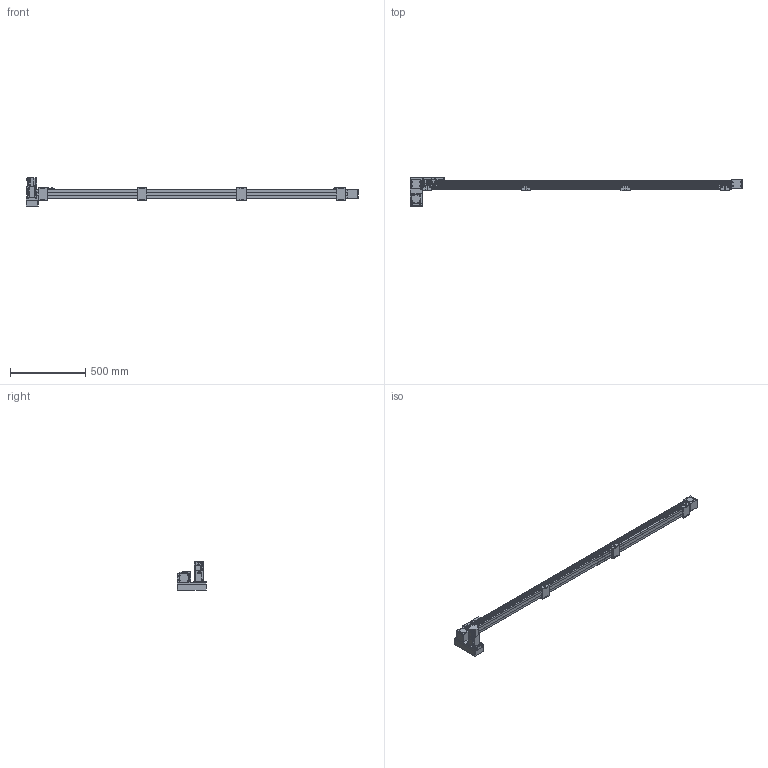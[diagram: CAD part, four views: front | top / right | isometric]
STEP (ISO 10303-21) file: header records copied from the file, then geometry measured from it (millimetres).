
FILE_DESCRIPTION(/* description */ ('STEP AP214'),/* implementation_level */ '2;1');
FILE_NAME(/* name */ 'SK60-P13-S1900-LD-T40-C1-N(0)',/* time_stamp */ '2023-04-06T04:39:28+02:00',/* author */ ('License CC BY-ND 4.0'),/* organization */ ('CADENAS'),/* preprocessor_version */ 'ST-DEVELOPER v19.3',/* originating_system */ 'PARTsolutions',/* authorisation */ ' ');
FILE_SCHEMA (('AUTOMOTIVE_DESIGN {1 0 10303 214 3 1 1}'));
Length unit declared in the file: millimetre
Products named in the file (10): SK60-P13-S1900-LD-T40-C1-N(0); PSC140-sensor; SK60-S450_seat; SK60-S450-BL-C1_slider; SK60_body3; SK60_body6; SK60-BL_body2; T40-p1; SK60-LD_fb; SK60-S1900-LD-C1_body
Assembly tree (18 placements, depth 2):
  SK60-P13-S1900-LD-T40-C1-N(0)
    PSC140-sensor  x3
    SK60-S450_seat  x4
    SK60-S450-BL-C1_slider
    SK60_body3  x3
    SK60_body6  x2
    SK60-BL_body2  x2
    T40-p1
    SK60-LD_fb
    SK60-S1900-LD-C1_body
Bounding box: 2205.5 x 199 x 189.7 mm (x, y, z)
Volume: 8666807.7 mm3; surface area: 1036063.9 mm2
Topology: 18 solids, 18 shells, 898 faces, 2244 edges, 1477 vertices
Faces by surface type: plane 572, cylinder 294, cone 30, torus 2
Full cylindrical faces by diameter (mm): 2.8 x3, 3.3 x4, 4 x2, 4.5 x30, 4.6 x3, 4.917 x24, 5 x6, 5.478 x4, 5.5 x27, 6.5 x8, 7 x2, 8 x4, 8.5 x4, 9.988 x4, 10 x16, 14 x1, 47 x3, 50 x2
Entity records: 18671 total; most frequent: DIRECTION 3188, CARTESIAN_POINT 3152, ORIENTED_EDGE 2940, EDGE_CURVE 1470, AXIS2_PLACEMENT_3D 1070, LINE 1048, VECTOR 1048, VERTEX_POINT 1034
